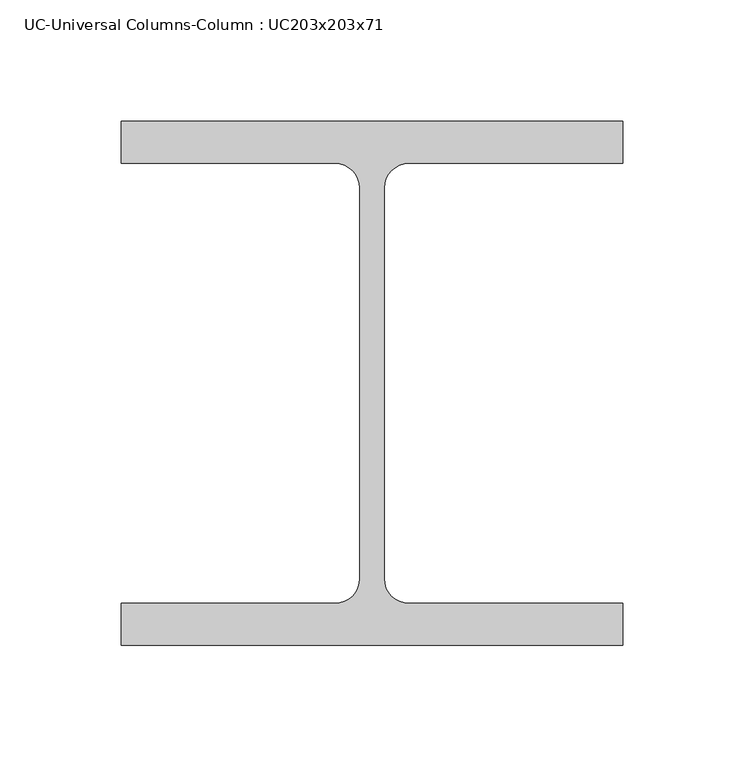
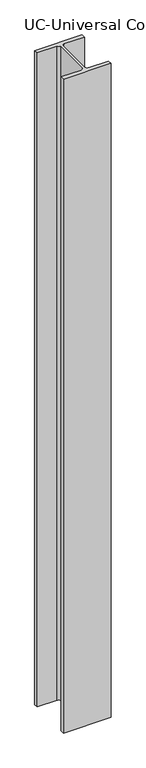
"""IFC4 building model written with IfcOpenShell, lengths in millimetres: column geometry, UC-Universal Columns-Column : UC203x203x71."""

from ifc_helpers import new_model, si_unit, point, frame, frame_2d, origin, place, context, project, spatial, polyline, circle_curve, trimmed, segment, composite_curve, outline, extrude, source, transform, mapped, element, save


def uc_universal_columns_column_uc203x203x71_7956e9f7(model_context):
    return source(origin(), model_context, "Body", "SweptSolid", [
        extrude(outline(composite_curve([segment(polyline([(103.2, 107.9), (103.2, 90.6), (15.2, 90.6)]), True, "CONTINUOUS"), segment(trimmed(circle_curve(frame_2d((15.2, 80.4)), 10.2), [point((15.2, 90.6))], [point((5.0, 80.4))], True, "CARTESIAN"), True, "CONTINUOUS"), segment(polyline([(5.0, 80.4), (5.0, -80.4)]), True, "CONTINUOUS"), segment(trimmed(circle_curve(frame_2d((15.2, -80.4)), 10.2), [point((5.0, -80.4))], [point((15.2, -90.6))], True, "CARTESIAN"), True, "CONTINUOUS"), segment(polyline([(15.2, -90.6), (103.2, -90.6), (103.2, -107.9), (-103.2, -107.9), (-103.2, -90.6), (-15.2, -90.6)]), True, "CONTINUOUS"), segment(trimmed(circle_curve(frame_2d((-15.2, -80.4)), 10.2), [point((-15.2, -90.6))], [point((-5.0, -80.4))], True, "CARTESIAN"), True, "CONTINUOUS"), segment(polyline([(-5.0, -80.4), (-5.0, 80.4)]), True, "CONTINUOUS"), segment(trimmed(circle_curve(frame_2d((-15.2, 80.4)), 10.2), [point((-5.0, 80.4))], [point((-15.2, 90.6))], True, "CARTESIAN"), True, "CONTINUOUS"), segment(polyline([(-15.2, 90.6), (-103.2, 90.6), (-103.2, 107.9), (103.2, 107.9)]), True, "CONTINUOUS")], self_intersect=False)), frame((0.0, 0.0, 4595.0), z_axis=(0.0, 0.0, 1.0), x_axis=(1.0, 0.0, 0.0)), (0.0, 0.0, 1.0), 3000.0),
    ])


if __name__ == "__main__":
    model = new_model("IFC4")
    model_context = context("Model", 3, world=origin())
    ifc_project = project(units=[si_unit("LENGTHUNIT", "METRE", prefix="MILLI")], contexts=[model_context])
    site = spatial("IfcSite", under=ifc_project)
    building = spatial("IfcBuilding", under=site)
    placement = place(None, origin())
    uc_universal_columns_column_uc203x203x71_shape = uc_universal_columns_column_uc203x203x71_7956e9f7(model_context)
    element("IfcColumn", 1, ObjectType="UC-Universal Columns-Column : UC203x203x71", at=placement, inside=building, context=model_context, shape_type="MappedRepresentation", body=[
        mapped(uc_universal_columns_column_uc203x203x71_shape, transform((0.0, 0.0, 0.0), x_axis=(1.0, 0.0, 0.0), y_axis=(0.0, 1.0, 0.0), z_axis=(0.0, 0.0, 1.0))),
    ])
    save(model, "model.ifc")
